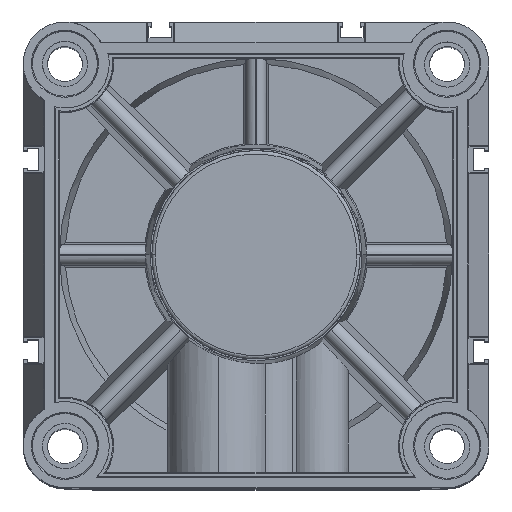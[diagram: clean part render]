
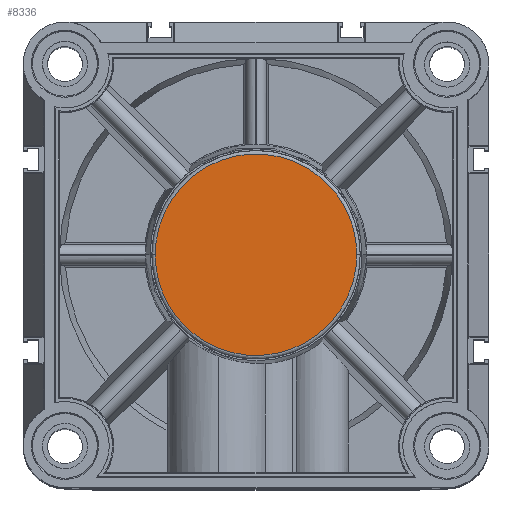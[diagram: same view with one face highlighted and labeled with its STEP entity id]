
A CAD part, top view. The second image highlights one B-rep face of the part: STEP entity #8336.
In plain terms, the highlighted planar face has unit normal (0, 0, 1).
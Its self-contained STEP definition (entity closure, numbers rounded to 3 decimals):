
#623 = CARTESIAN_POINT ( 'NONE',  ( 90., 61., 51.3 ) ) ;
#1325 = CARTESIAN_POINT ( 'NONE',  ( 32., 119., 51.3 ) ) ;
#5119 = CARTESIAN_POINT ( 'NONE',  ( 32., 61., 51.3 ) ) ;
#7192 = FACE_OUTER_BOUND ( 'NONE', #19214, .T. ) ;
#8336 = ADVANCED_FACE ( 'NONE', ( #7192 ), #17563, .T. ) ;
#9573 = AXIS2_PLACEMENT_3D ( 'NONE', #16093, #16153, #16243 ) ;
#11524 = CARTESIAN_POINT ( 'NONE',  ( 90., 61., 51.3 ) ) ;
#14516 = VERTEX_POINT ( 'NONE', #38149 ) ;
#16093 = CARTESIAN_POINT ( 'NONE',  ( 31.652, 31.652, 51.3 ) ) ;
#16153 = DIRECTION ( 'NONE',  ( 0., 0., 1. ) ) ;
#16243 = DIRECTION ( 'NONE',  ( 1., 0., 0. ) ) ;
#17563 = PLANE ( 'NONE',  #9573 ) ;
#19214 = EDGE_LOOP ( 'NONE', ( #26437, #39698 ) ) ;
#21627 = CARTESIAN_POINT ( 'NONE',  ( 32., 61., 51.3 ) ) ;
#25489 = CARTESIAN_POINT ( 'NONE',  ( 32., 3., 51.3 ) ) ;
#26437 = ORIENTED_EDGE ( 'NONE', *, *, #44244, .F. ) ;
#31605 = VERTEX_POINT ( 'NONE', #623 ) ;
#31936 = CARTESIAN_POINT ( 'NONE',  ( 90., 119., 51.3 ) ) ;
#32166 = EDGE_CURVE ( 'NONE', #31605, #14516, #44513, .T. ) ;
#32189 = CARTESIAN_POINT ( 'NONE',  ( 90., 3., 51.3 ) ) ;
#38149 = CARTESIAN_POINT ( 'NONE',  ( 32., 61., 51.3 ) ) ;
#38910 = CARTESIAN_POINT ( 'NONE',  ( 90., 61., 51.3 ) ) ;
#39698 = ORIENTED_EDGE ( 'NONE', *, *, #32166, .F. ) ;
#43057 =( BOUNDED_CURVE ( )  B_SPLINE_CURVE ( 3, ( #21627, #1325, #31936, #11524 ),
 .UNSPECIFIED., .F., .F. ) 
 B_SPLINE_CURVE_WITH_KNOTS ( ( 4, 4 ),
 ( 0., 1. ),
 .UNSPECIFIED. ) 
 CURVE ( )  GEOMETRIC_REPRESENTATION_ITEM ( )  RATIONAL_B_SPLINE_CURVE ( ( 0.957, 0.319, 0.319, 0.957 ) ) 
 REPRESENTATION_ITEM ( '' )  );
#44244 = EDGE_CURVE ( 'NONE', #14516, #31605, #43057, .T. ) ;
#44513 =( BOUNDED_CURVE ( )  B_SPLINE_CURVE ( 3, ( #38910, #32189, #25489, #5119 ),
 .UNSPECIFIED., .F., .T. ) 
 B_SPLINE_CURVE_WITH_KNOTS ( ( 4, 4 ),
 ( 0., 1. ),
 .UNSPECIFIED. ) 
 CURVE ( )  GEOMETRIC_REPRESENTATION_ITEM ( )  RATIONAL_B_SPLINE_CURVE ( ( 0.957, 0.319, 0.319, 0.957 ) ) 
 REPRESENTATION_ITEM ( '' )  );
